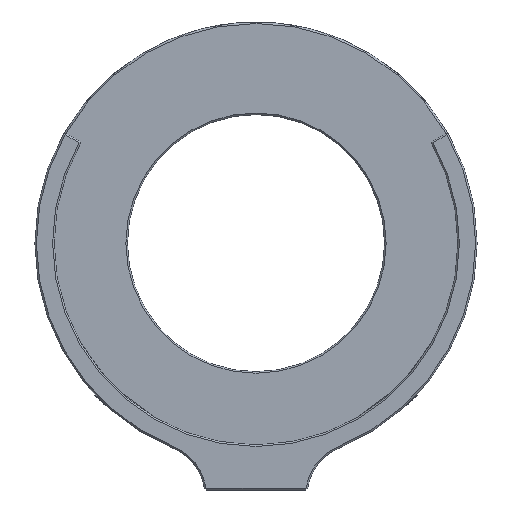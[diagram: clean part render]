
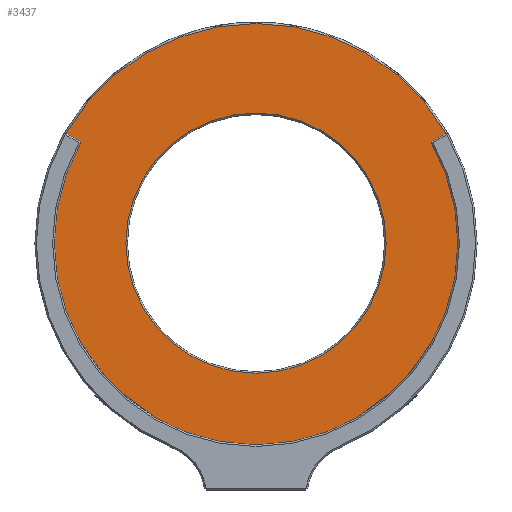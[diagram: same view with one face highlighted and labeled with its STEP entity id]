
A CAD part, top view. The second image highlights one B-rep face of the part: STEP entity #3437.
In plain terms, the highlighted planar face has unit normal (0, 0, 1).
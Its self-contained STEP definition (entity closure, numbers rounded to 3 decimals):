
#12 = DIRECTION ( 'NONE',  ( -0.866, 0.5, 0. ) ) ;
#48 = DIRECTION ( 'NONE',  ( 0., 0., 1. ) ) ;
#79 = CARTESIAN_POINT ( 'NONE',  ( 1.044, -38.276, 89. ) ) ;
#98 = LINE ( 'NONE', #4140, #4735 ) ;
#126 = VERTEX_POINT ( 'NONE', #3056 ) ;
#173 = CARTESIAN_POINT ( 'NONE',  ( -34.435, 22.295, 89. ) ) ;
#194 = CARTESIAN_POINT ( 'NONE',  ( 36.683, 20.312, 89. ) ) ;
#228 = VECTOR ( 'NONE', #4564, 1000. ) ;
#378 = VERTEX_POINT ( 'NONE', #3489 ) ;
#388 = ORIENTED_EDGE ( 'NONE', *, *, #3314, .F. ) ;
#442 = PLANE ( 'NONE',  #3499 ) ;
#483 = VERTEX_POINT ( 'NONE', #5324 ) ;
#498 = EDGE_CURVE ( 'NONE', #2644, #483, #884, .T. ) ;
#589 = DIRECTION ( 'NONE',  ( 0., 0., 1. ) ) ;
#634 = CIRCLE ( 'NONE', #1429, 39.25 ) ;
#754 = VECTOR ( 'NONE', #12, 1000. ) ;
#829 = EDGE_CURVE ( 'NONE', #4484, #1602, #1336, .T. ) ;
#840 = CARTESIAN_POINT ( 'NONE',  ( 2.544, 0.945, 89. ) ) ;
#884 = CIRCLE ( 'NONE', #4708, 39.25 ) ;
#908 = DIRECTION ( 'NONE',  ( 0., 0., 1. ) ) ;
#909 = CARTESIAN_POINT ( 'NONE',  ( 36.683, 20.312, 89. ) ) ;
#1092 = ORIENTED_EDGE ( 'NONE', *, *, #1994, .F. ) ;
#1141 = LINE ( 'NONE', #4599, #754 ) ;
#1238 = EDGE_CURVE ( 'NONE', #2510, #2041, #4803, .T. ) ;
#1336 = LINE ( 'NONE', #909, #4755 ) ;
#1337 = CARTESIAN_POINT ( 'NONE',  ( 2.544, 0.945, 89. ) ) ;
#1340 = ORIENTED_EDGE ( 'NONE', *, *, #498, .T. ) ;
#1412 = DIRECTION ( 'NONE',  ( 1., 0., 0. ) ) ;
#1418 = ORIENTED_EDGE ( 'NONE', *, *, #1238, .T. ) ;
#1429 = AXIS2_PLACEMENT_3D ( 'NONE', #3169, #3114, #5211 ) ;
#1596 = CARTESIAN_POINT ( 'NONE',  ( 4.044, -38.276, 89. ) ) ;
#1600 = EDGE_CURVE ( 'NONE', #483, #4484, #3997, .T. ) ;
#1602 = VERTEX_POINT ( 'NONE', #2923 ) ;
#1606 = CARTESIAN_POINT ( 'NONE',  ( -36.706, 0.945, 89. ) ) ;
#1620 = DIRECTION ( 'NONE',  ( 0., 0., -1. ) ) ;
#1649 = CARTESIAN_POINT ( 'NONE',  ( 39.523, 22.295, 89. ) ) ;
#1670 = EDGE_LOOP ( 'NONE', ( #3202, #5253 ) ) ;
#1707 = AXIS2_PLACEMENT_3D ( 'NONE', #4596, #908, #4616 ) ;
#1748 = DIRECTION ( 'NONE',  ( 1., 0., 0. ) ) ;
#1760 = FACE_OUTER_BOUND ( 'NONE', #2029, .T. ) ;
#1830 = DIRECTION ( 'NONE',  ( 0., 0., 1. ) ) ;
#1913 = CARTESIAN_POINT ( 'NONE',  ( 2.544, 0.945, 89. ) ) ;
#1967 = VERTEX_POINT ( 'NONE', #1649 ) ;
#1986 = AXIS2_PLACEMENT_3D ( 'NONE', #5321, #1620, #2120 ) ;
#1994 = EDGE_CURVE ( 'NONE', #2594, #4509, #1141, .T. ) ;
#2029 = EDGE_LOOP ( 'NONE', ( #388, #2851, #1092, #5100, #3350, #1418, #3887, #1340, #4962, #4024 ) ) ;
#2041 = VERTEX_POINT ( 'NONE', #79 ) ;
#2073 = DIRECTION ( 'NONE',  ( 0.259, -0.966, 0. ) ) ;
#2093 = EDGE_CURVE ( 'NONE', #4998, #126, #4049, .T. ) ;
#2120 = DIRECTION ( 'NONE',  ( 1., 0., 0. ) ) ;
#2203 = DIRECTION ( 'NONE',  ( 0.262, 0.965, 0. ) ) ;
#2235 = AXIS2_PLACEMENT_3D ( 'NONE', #4567, #4999, #2972 ) ;
#2344 = DIRECTION ( 'NONE',  ( 0., 0., 1. ) ) ;
#2385 = AXIS2_PLACEMENT_3D ( 'NONE', #1913, #2344, #2754 ) ;
#2510 = VERTEX_POINT ( 'NONE', #1606 ) ;
#2594 = VERTEX_POINT ( 'NONE', #3715 ) ;
#2604 = FACE_BOUND ( 'NONE', #1670, .T. ) ;
#2644 = VERTEX_POINT ( 'NONE', #1596 ) ;
#2665 = EDGE_CURVE ( 'NONE', #2594, #378, #98, .T. ) ;
#2754 = DIRECTION ( 'NONE',  ( 1., 0., 0. ) ) ;
#2767 = CIRCLE ( 'NONE', #2385, 39.25 ) ;
#2851 = ORIENTED_EDGE ( 'NONE', *, *, #4425, .T. ) ;
#2923 = CARTESIAN_POINT ( 'NONE',  ( 36.794, 20.72, 89. ) ) ;
#2972 = DIRECTION ( 'NONE',  ( 1., 0., 0. ) ) ;
#2996 = CARTESIAN_POINT ( 'NONE',  ( -22.756, 0.945, 89. ) ) ;
#3056 = CARTESIAN_POINT ( 'NONE',  ( 27.844, 0.945, 89. ) ) ;
#3064 = CARTESIAN_POINT ( 'NONE',  ( 2.544, 0.945, 89. ) ) ;
#3114 = DIRECTION ( 'NONE',  ( 0., 0., 1. ) ) ;
#3169 = CARTESIAN_POINT ( 'NONE',  ( 2.544, 0.945, 89. ) ) ;
#3202 = ORIENTED_EDGE ( 'NONE', *, *, #4887, .T. ) ;
#3314 = EDGE_CURVE ( 'NONE', #1967, #1602, #4420, .T. ) ;
#3350 = ORIENTED_EDGE ( 'NONE', *, *, #4587, .T. ) ;
#3364 = DIRECTION ( 'NONE',  ( 1., 0., 0. ) ) ;
#3396 = DIRECTION ( 'NONE',  ( 0., 0., 1. ) ) ;
#3437 = ADVANCED_FACE ( 'NONE', ( #2604, #1760 ), #442, .T. ) ;
#3489 = CARTESIAN_POINT ( 'NONE',  ( -31.597, 20.309, 89. ) ) ;
#3499 = AXIS2_PLACEMENT_3D ( 'NONE', #1337, #3396, #1748 ) ;
#3502 = DIRECTION ( 'NONE',  ( 1., 0., 0. ) ) ;
#3715 = CARTESIAN_POINT ( 'NONE',  ( -31.708, 20.72, 89. ) ) ;
#3745 = CARTESIAN_POINT ( 'NONE',  ( 21.813, 12.07, 89. ) ) ;
#3887 = ORIENTED_EDGE ( 'NONE', *, *, #4690, .T. ) ;
#3997 = CIRCLE ( 'NONE', #4969, 39.25 ) ;
#4024 = ORIENTED_EDGE ( 'NONE', *, *, #829, .T. ) ;
#4049 = CIRCLE ( 'NONE', #2235, 25.3 ) ;
#4140 = CARTESIAN_POINT ( 'NONE',  ( -31.597, 20.309, 89. ) ) ;
#4359 = CARTESIAN_POINT ( 'NONE',  ( 2.544, 0.945, 89. ) ) ;
#4375 = CIRCLE ( 'NONE', #1986, 25.3 ) ;
#4420 = LINE ( 'NONE', #3745, #228 ) ;
#4425 = EDGE_CURVE ( 'NONE', #1967, #4509, #5216, .T. ) ;
#4473 = AXIS2_PLACEMENT_3D ( 'NONE', #4359, #1830, #3502 ) ;
#4484 = VERTEX_POINT ( 'NONE', #194 ) ;
#4509 = VERTEX_POINT ( 'NONE', #173 ) ;
#4564 = DIRECTION ( 'NONE',  ( -0.866, -0.5, 0. ) ) ;
#4567 = CARTESIAN_POINT ( 'NONE',  ( 2.544, 0.945, 89. ) ) ;
#4587 = EDGE_CURVE ( 'NONE', #378, #2510, #634, .T. ) ;
#4596 = CARTESIAN_POINT ( 'NONE',  ( 2.544, 0.945, 89. ) ) ;
#4599 = CARTESIAN_POINT ( 'NONE',  ( -16.725, 12.07, 89. ) ) ;
#4616 = DIRECTION ( 'NONE',  ( 1., 0., 0. ) ) ;
#4690 = EDGE_CURVE ( 'NONE', #2041, #2644, #2767, .T. ) ;
#4708 = AXIS2_PLACEMENT_3D ( 'NONE', #3064, #589, #1412 ) ;
#4735 = VECTOR ( 'NONE', #2073, 1000. ) ;
#4755 = VECTOR ( 'NONE', #2203, 1000. ) ;
#4803 = CIRCLE ( 'NONE', #4473, 39.25 ) ;
#4887 = EDGE_CURVE ( 'NONE', #126, #4998, #4375, .T. ) ;
#4962 = ORIENTED_EDGE ( 'NONE', *, *, #1600, .T. ) ;
#4969 = AXIS2_PLACEMENT_3D ( 'NONE', #840, #48, #3364 ) ;
#4998 = VERTEX_POINT ( 'NONE', #2996 ) ;
#4999 = DIRECTION ( 'NONE',  ( 0., 0., -1. ) ) ;
#5100 = ORIENTED_EDGE ( 'NONE', *, *, #2665, .T. ) ;
#5211 = DIRECTION ( 'NONE',  ( 1., 0., 0. ) ) ;
#5216 = CIRCLE ( 'NONE', #1707, 42.7 ) ;
#5253 = ORIENTED_EDGE ( 'NONE', *, *, #2093, .T. ) ;
#5321 = CARTESIAN_POINT ( 'NONE',  ( 2.544, 0.945, 89. ) ) ;
#5324 = CARTESIAN_POINT ( 'NONE',  ( 41.794, 0.945, 89. ) ) ;
